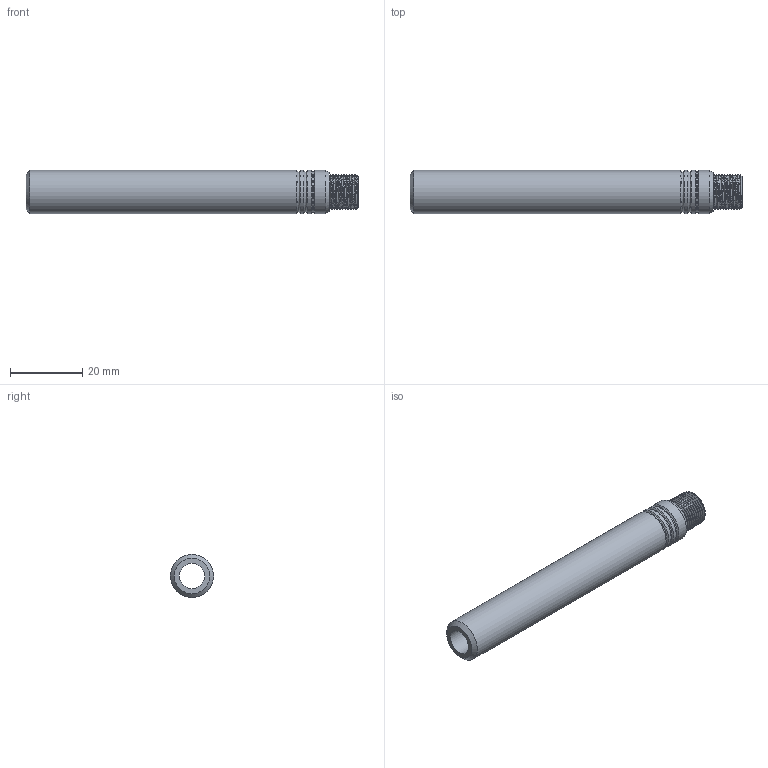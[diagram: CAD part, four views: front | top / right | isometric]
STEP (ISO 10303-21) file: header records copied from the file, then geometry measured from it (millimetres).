
FILE_DESCRIPTION(('Open CASCADE Model'),'2;1');
FILE_NAME('Open CASCADE Shape Model','2026-11-25T12:49:25',('Author'),( 'Open CASCADE'),'Open CASCADE STEP processor 8.0','Open CASCADE 8.0' ,'Unknown');
FILE_SCHEMA(('AP242_MANAGED_MODEL_BASED_3D_ENGINEERING_MIM_LF {1 0 10303 442 1 1 4 }' ));
Length unit declared in the file: millimetre
Products named in the file (1): Barrel
Bounding box: 92 x 12 x 12 mm (x, y, z)
Volume: 6431.6 mm3; surface area: 5701.4 mm2
Topology: 1 solids, 1 shells, 34 faces, 79 edges, 48 vertices
Faces by surface type: cylinder 19, cone 9, plane 3, bspline 3
Full cylindrical faces by diameter (mm): 7 x1, 9.7 x9, 11.2 x3, 12 x4
Entity records: 7194 total; most frequent: CARTESIAN_POINT 5702, DIRECTION 232, ORIENTED_EDGE 158, PCURVE 158, DEFINITIONAL_REPRESENTATION 158, LINE 121, VECTOR 121, B_SPLINE_CURVE_WITH_KNOTS 89
